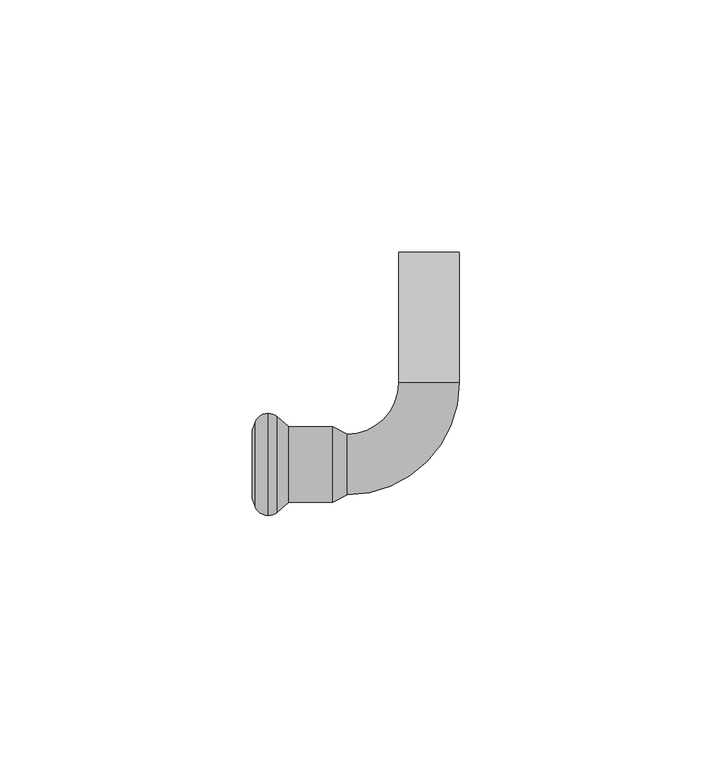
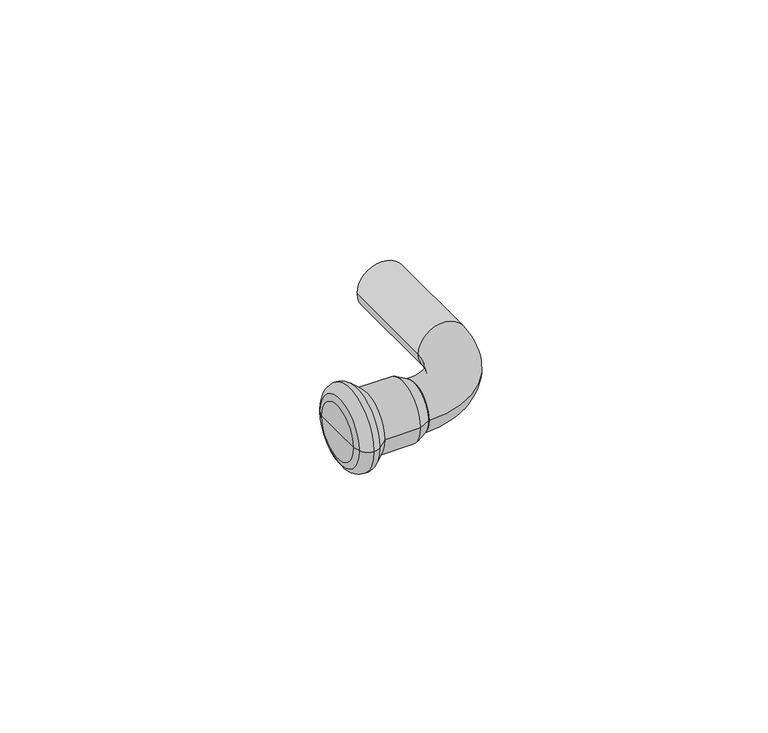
"""IFC4 building model written with IfcOpenShell, lengths in millimetres: pipe fitting geometry, KAN-therm Steel kolano nyplowe : KAN-therm Steel kolano nyplowe."""

from ifc_helpers import new_model, si_unit, point, frame, origin, place, context, project, spatial, polyline, circle_curve, ellipse_curve, trimmed, source, transform, mapped, element, save
from ifc_brep_helpers import plane_surface, cylinder_surface, revolved_surface, advanced_brep


def pipe_fitting_e4f30973(model_context):
    return source(origin(), model_context, "Body", "AdvancedBrep", [
        advanced_brep(
        [(-16.2, -6.0, 0.0), (-16.2, 6.0, 0.0), (-6.0, 16.2, 0.0), (6.0, 16.2, 0.0), (6.0, 42.0, 0.0), (-6.0, 42.0, 0.0)],
        [
            (0, 1, circle_curve(frame((-16.2, 0.0, 0.0), z_axis=(-1.0, 0.0, 0.0), x_axis=(0.0, 1.0, 0.0)), 6.0)),
            (1, 0, circle_curve(frame((-16.2, 0.0, 0.0), z_axis=(-1.0, 0.0, 0.0), x_axis=(0.0, 1.0, 0.0)), 6.0)),
            (2, 1, circle_curve(frame((-16.2, 16.2, 0.0), z_axis=(0.0, 0.0, -1.0), x_axis=(0.0, -1.0, 0.0)), 10.2)),
            (0, 3, circle_curve(frame((-16.2, 16.2, 0.0), z_axis=(0.0, 0.0, 1.0), x_axis=(0.0, -1.0, 0.0)), 22.2)),
            (3, 2, circle_curve(frame((0.0, 16.2, 0.0), z_axis=(0.0, -1.0, 0.0), x_axis=(-1.0, 0.0, 0.0)), 6.0)),
            (2, 3, circle_curve(frame((0.0, 16.2, 0.0), z_axis=(0.0, -1.0, 0.0), x_axis=(-1.0, 0.0, 0.0)), 6.0)),
            (4, 5, circle_curve(frame((0.0, 42.0, 0.0), z_axis=(0.0, 1.0, 0.0), x_axis=(-1.0, 0.0, 0.0)), 6.0)),
            (5, 4, circle_curve(frame((0.0, 42.0, 0.0), z_axis=(0.0, 1.0, 0.0), x_axis=(-1.0, 0.0, 0.0)), 6.0)),
            (3, 4),
            (5, 2),
        ],
        [
            plane_surface(frame((-16.2, 0.0, 0.0), z_axis=(-1.0, 0.0, 0.0), x_axis=(0.0, 0.0, 1.0))),
            revolved_surface(trimmed(ellipse_curve(frame((-16.2, 0.0, 0.0), z_axis=(-1.0, 0.0, 0.0), x_axis=(0.0, 1.0, 0.0)), 6.0, 6.0), [point((-16.2, -6.0, 0.0))], [point((-16.2, 6.0, 0.0))], True, "CARTESIAN"), (-16.2, 16.2, 0.0), (0.0, 0.0, 1.0)),
            revolved_surface(trimmed(ellipse_curve(frame((-16.2, 0.0, 0.0), z_axis=(-1.0, 0.0, 0.0), x_axis=(0.0, 1.0, 0.0)), 6.0, 6.0), [point((-16.2, 6.0, 0.0))], [point((-16.2, -6.0, 0.0))], True, "CARTESIAN"), (-16.2, 16.2, 0.0), (0.0, 0.0, 1.0)),
            plane_surface(frame((0.0, 42.0, 0.0), z_axis=(0.0, 1.0, 0.0), x_axis=(0.0, 0.0, 1.0))),
            cylinder_surface(frame((0.0, 16.2, 0.0), z_axis=(0.0, -1.0, 0.0), x_axis=(-1.0, 0.0, 0.0)), 6.0),
        ],
        [
            (0, [[1, 2]]),
            (1, [[3, -1, 4, 5]]),
            (2, [[-4, -2, -3, 6]]),
            (3, [[7, 8]]),
            (4, [[-5, 9, -8, 10]]),
            (4, [[-6, -10, -7, -9]]),
        ],
    ),
        advanced_brep(
        [(-19.1180407, -7.5, 0.0), (-19.1180407, 7.5, 0.0), (-16.2, 6.0, 0.0), (-16.2, -6.0, 0.0), (-27.7838092, -7.5, 0.0), (-27.7838092, 7.5, 0.0), (-30.0922627, -9.4370225, 0.0), (-30.0922627, 9.4370225, 0.0), (-31.8921278, -10.125, 0.0), (-31.8921278, 10.125, 0.0), (-34.432052, -8.3484544, 0.0), (-34.432052, 8.3484544, 0.0), (-35.0, -6.7880302, 0.0), (-35.0, 6.7880302, 0.0), (-35.0, 0.0, 0.0), (-16.2, 0.0, 0.0)],
        [
            (0, 1, circle_curve(frame((-19.1180407, 0.0, 0.0), z_axis=(1.0, 0.0, 0.0), x_axis=(0.0, 1.0, 0.0)), 7.5)),
            (1, 2),
            (2, 3, circle_curve(frame((-16.2, 0.0, 0.0), z_axis=(-1.0, 0.0, 0.0), x_axis=(0.0, 1.0, 0.0)), 6.0)),
            (3, 0),
            (1, 0, circle_curve(frame((-19.1180407, 0.0, 0.0), z_axis=(1.0, 0.0, 0.0), x_axis=(0.0, 1.0, 0.0)), 7.5)),
            (3, 2, circle_curve(frame((-16.2, 0.0, 0.0), z_axis=(-1.0, 0.0, 0.0), x_axis=(0.0, 1.0, 0.0)), 6.0)),
            (4, 5, circle_curve(frame((-27.7838092, 0.0, 0.0), z_axis=(1.0, 0.0, 0.0), x_axis=(0.0, 1.0, 0.0)), 7.5)),
            (5, 1),
            (0, 4),
            (5, 4, circle_curve(frame((-27.7838092, 0.0, 0.0), z_axis=(1.0, 0.0, 0.0), x_axis=(0.0, 1.0, 0.0)), 7.5)),
            (6, 7, circle_curve(frame((-30.0922627, 0.0, 0.0), z_axis=(1.0, 0.0, 0.0), x_axis=(0.0, 1.0, 0.0)), 9.4370225)),
            (7, 5),
            (4, 6),
            (7, 6, circle_curve(frame((-30.0922627, 0.0, 0.0), z_axis=(1.0, 0.0, 0.0), x_axis=(0.0, 1.0, 0.0)), 9.4370225)),
            (8, 9, circle_curve(frame((-31.8921278, 0.0, 0.0), z_axis=(1.0, 0.0, 0.0), x_axis=(0.0, 1.0, 0.0)), 10.125)),
            (9, 7, circle_curve(frame((-31.8935049, 7.4230333, 0.0), z_axis=(0.0, 0.0, -1.0), x_axis=(1.0, 0.0, 0.0)), 2.701967)),
            (6, 8, circle_curve(frame((-31.8935049, -7.4230333, 0.0), z_axis=(0.0, 0.0, -1.0), x_axis=(1.0, 0.0, 0.0)), 2.701967)),
            (9, 8, circle_curve(frame((-31.8921278, 0.0, 0.0), z_axis=(1.0, 0.0, 0.0), x_axis=(0.0, 1.0, 0.0)), 10.125)),
            (10, 11, circle_curve(frame((-34.432052, 0.0, 0.0), z_axis=(1.0, 0.0, 0.0), x_axis=(0.0, 1.0, 0.0)), 8.3484544)),
            (11, 9, circle_curve(frame((-31.89488, 7.4249993, 0.0), z_axis=(0.0, 0.0, -1.0), x_axis=(1.0, 0.0, 0.0)), 2.7000021)),
            (8, 10, circle_curve(frame((-31.89488, -7.4249993, 0.0), z_axis=(0.0, 0.0, -1.0), x_axis=(1.0, 0.0, 0.0)), 2.7000021)),
            (11, 10, circle_curve(frame((-34.432052, 0.0, 0.0), z_axis=(1.0, 0.0, 0.0), x_axis=(0.0, 1.0, 0.0)), 8.3484544)),
            (12, 13, circle_curve(frame((-35.0, 0.0, 0.0), z_axis=(1.0, 0.0, 0.0), x_axis=(0.0, 1.0, 0.0)), 6.7880302)),
            (13, 11),
            (10, 12),
            (13, 12, circle_curve(frame((-35.0, 0.0, 0.0), z_axis=(1.0, 0.0, 0.0), x_axis=(0.0, 1.0, 0.0)), 6.7880302)),
            (14, 13),
            (12, 14),
            (2, 15),
            (15, 3),
        ],
        [
            revolved_surface(polyline([(-16.2, 6.0, 0.0), (-19.1180407, 7.5, 0.0)]), (1354.742668, 0.0, 0.0), (-1.0, 0.0, 0.0)),
            cylinder_surface(frame((1354.742668, 0.0, 0.0), z_axis=(-1.0, 0.0, 0.0), x_axis=(0.0, 1.0, 0.0)), 7.5),
            revolved_surface(polyline([(-27.7838092, 7.5, 0.0), (-30.0922627, 9.4370225, 0.0)]), (1354.742668, 0.0, 0.0), (-1.0, 0.0, 0.0)),
            revolved_surface(trimmed(ellipse_curve(frame((-31.8935049, 7.4230333, 0.0), z_axis=(0.0, 0.0, 1.0), x_axis=(1.0, 0.0, 0.0)), 2.701967, 2.701967), [point((-30.0922627, 9.4370225, 0.0))], [point((-31.8921278, 10.125, 0.0))], True, "CARTESIAN"), (1354.742668, 0.0, 0.0), (-1.0, 0.0, 0.0)),
            revolved_surface(trimmed(ellipse_curve(frame((-31.89488, 7.4249993, 0.0), z_axis=(0.0, 0.0, 1.0), x_axis=(1.0, 0.0, 0.0)), 2.7000021, 2.7000021), [point((-31.8921278, 10.125, 0.0))], [point((-34.432052, 8.3484544, 0.0))], True, "CARTESIAN"), (1354.742668, 0.0, 0.0), (-1.0, 0.0, 0.0)),
            revolved_surface(polyline([(-34.432052, 8.3484544, 0.0), (-35.0, 6.7880302, 0.0)]), (1354.742668, 0.0, 0.0), (-1.0, 0.0, 0.0)),
            plane_surface(frame((-35.0, 0.0, 0.0), z_axis=(-1.0, 0.0, 0.0), x_axis=(0.0, 1.0, 0.0))),
            plane_surface(frame((-16.2, 0.0, 0.0), z_axis=(1.0, 0.0, 0.0), x_axis=(0.0, 1.0, 0.0))),
        ],
        [
            (0, [[1, 2, 3, 4]]),
            (0, [[5, -4, 6, -2]]),
            (1, [[7, 8, -1, 9]]),
            (1, [[10, -9, -5, -8]]),
            (2, [[11, 12, -7, 13]]),
            (2, [[14, -13, -10, -12]]),
            (3, [[15, 16, -11, 17]]),
            (3, [[18, -17, -14, -16]]),
            (4, [[19, 20, -15, 21]]),
            (4, [[22, -21, -18, -20]]),
            (5, [[23, 24, -19, 25]]),
            (5, [[26, -25, -22, -24]]),
            (6, [[27, -23, 28]]),
            (6, [[-28, -26, -27]]),
            (7, [[-3, 29, 30]]),
            (7, [[-6, -30, -29]]),
        ],
    ),
    ])


if __name__ == "__main__":
    model = new_model("IFC4")
    model_context = context("Model", 3, world=origin())
    ifc_project = project(units=[si_unit("LENGTHUNIT", "METRE", prefix="MILLI")], contexts=[model_context])
    site = spatial("IfcSite", under=ifc_project)
    building = spatial("IfcBuilding", under=site)
    placement = place(None, origin())
    pipe_fitting_shape = pipe_fitting_e4f30973(model_context)
    element("IfcPipeFitting", 1, ObjectType="KAN-therm Steel kolano nyplowe : KAN-therm Steel kolano nyplowe", at=placement, inside=building, context=model_context, shape_type="MappedRepresentation", body=[
        mapped(pipe_fitting_shape, transform((0.0, 0.0, 0.0), x_axis=(1.0, 0.0, 0.0), y_axis=(0.0, 1.0, 0.0), z_axis=(0.0, 0.0, 1.0))),
    ])
    save(model, "model.ifc")
